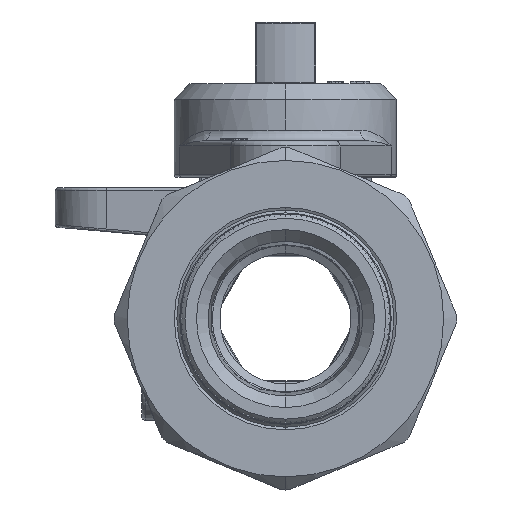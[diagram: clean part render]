
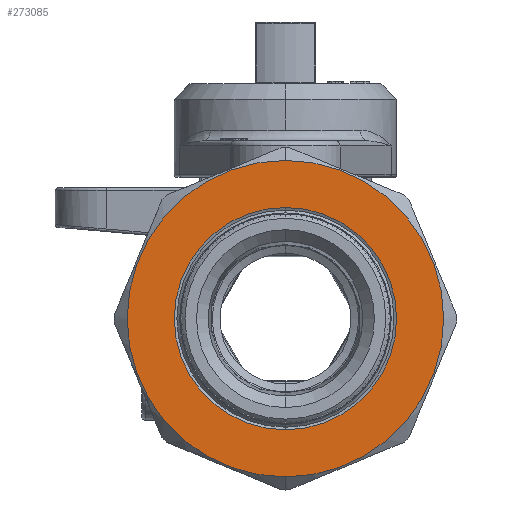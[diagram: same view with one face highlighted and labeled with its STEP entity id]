
A CAD part, left-side view. The second image highlights one B-rep face of the part: STEP entity #273085.
In plain terms, the highlighted planar face has unit normal (-1, 0, 0).
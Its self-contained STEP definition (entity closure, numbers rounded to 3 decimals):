
#273085 = ADVANCED_FACE('',(#273086,#273159),#273101,.F.);
#273086 = FACE_BOUND('',#273087,.T.);
#273087 = EDGE_LOOP('',(#273088,#273128));
#273088 = ORIENTED_EDGE('',*,*,#273089,.T.);
#273089 = EDGE_CURVE('',#273090,#273092,#273094,.T.);
#273090 = VERTEX_POINT('',#273091);
#273091 = CARTESIAN_POINT('',(-76.9,-14.566,-15.684));
#273092 = VERTEX_POINT('',#273093);
#273093 = CARTESIAN_POINT('',(-76.9,-14.566,44.816));
#273094 = SURFACE_CURVE('',#273095,(#273100,#273116),.PCURVE_S1.);
#273095 = CIRCLE('',#273096,30.25);
#273096 = AXIS2_PLACEMENT_3D('',#273097,#273098,#273099);
#273097 = CARTESIAN_POINT('',(-76.9,-14.566,14.566));
#273098 = DIRECTION('',(-1.,0.,0.));
#273099 = DIRECTION('',(0.,0.,-1.));
#273100 = PCURVE('',#273101,#273106);
#273101 = PLANE('',#273102);
#273102 = AXIS2_PLACEMENT_3D('',#273103,#273104,#273105);
#273103 = CARTESIAN_POINT('',(-76.9,-14.566,14.566));
#273104 = DIRECTION('',(1.,0.,0.));
#273105 = DIRECTION('',(-0.,1.,0.));
#273106 = DEFINITIONAL_REPRESENTATION('',(#273107),#273115);
#273107 = ( BOUNDED_CURVE() B_SPLINE_CURVE(2,(#273108,#273109,#273110,
    #273111,#273112,#273113,#273114),.UNSPECIFIED.,.T.,.F.) 
B_SPLINE_CURVE_WITH_KNOTS((1,2,2,2,2,1),(-2.094,0.,
    2.094,4.189,6.283,8.378),
.UNSPECIFIED.) CURVE() GEOMETRIC_REPRESENTATION_ITEM() 
RATIONAL_B_SPLINE_CURVE((1.,0.5,1.,0.5,1.,0.5,1.)) REPRESENTATION_ITEM(
  '') );
#273108 = CARTESIAN_POINT('',(0.,-30.25));
#273109 = CARTESIAN_POINT('',(-52.395,-30.25));
#273110 = CARTESIAN_POINT('',(-26.197,15.125));
#273111 = CARTESIAN_POINT('',(0.,60.5));
#273112 = CARTESIAN_POINT('',(26.197,15.125));
#273113 = CARTESIAN_POINT('',(52.395,-30.25));
#273114 = CARTESIAN_POINT('',(0.,-30.25));
#273115 = ( GEOMETRIC_REPRESENTATION_CONTEXT(2) 
PARAMETRIC_REPRESENTATION_CONTEXT() REPRESENTATION_CONTEXT('2D SPACE',''
  ) );
#273116 = PCURVE('',#273117,#273122);
#273117 = CONICAL_SURFACE('',#273118,31.5,0.785);
#273118 = AXIS2_PLACEMENT_3D('',#273119,#273120,#273121);
#273119 = CARTESIAN_POINT('',(-75.65,-14.566,14.566));
#273120 = DIRECTION('',(1.,0.,0.));
#273121 = DIRECTION('',(0.,0.,-1.));
#273122 = DEFINITIONAL_REPRESENTATION('',(#273123),#273127);
#273123 = LINE('',#273124,#273125);
#273124 = CARTESIAN_POINT('',(6.283,-1.25));
#273125 = VECTOR('',#273126,1.);
#273126 = DIRECTION('',(-1.,0.));
#273127 = ( GEOMETRIC_REPRESENTATION_CONTEXT(2) 
PARAMETRIC_REPRESENTATION_CONTEXT() REPRESENTATION_CONTEXT('2D SPACE',''
  ) );
#273128 = ORIENTED_EDGE('',*,*,#273129,.T.);
#273129 = EDGE_CURVE('',#273092,#273090,#273130,.T.);
#273130 = SURFACE_CURVE('',#273131,(#273136,#273147),.PCURVE_S1.);
#273131 = CIRCLE('',#273132,30.25);
#273132 = AXIS2_PLACEMENT_3D('',#273133,#273134,#273135);
#273133 = CARTESIAN_POINT('',(-76.9,-14.566,14.566));
#273134 = DIRECTION('',(-1.,0.,0.));
#273135 = DIRECTION('',(0.,0.,1.));
#273136 = PCURVE('',#273101,#273137);
#273137 = DEFINITIONAL_REPRESENTATION('',(#273138),#273146);
#273138 = ( BOUNDED_CURVE() B_SPLINE_CURVE(2,(#273139,#273140,#273141,
    #273142,#273143,#273144,#273145),.UNSPECIFIED.,.T.,.F.) 
B_SPLINE_CURVE_WITH_KNOTS((1,2,2,2,2,1),(-2.094,0.,
    2.094,4.189,6.283,8.378),
.UNSPECIFIED.) CURVE() GEOMETRIC_REPRESENTATION_ITEM() 
RATIONAL_B_SPLINE_CURVE((1.,0.5,1.,0.5,1.,0.5,1.)) REPRESENTATION_ITEM(
  '') );
#273139 = CARTESIAN_POINT('',(0.,30.25));
#273140 = CARTESIAN_POINT('',(52.395,30.25));
#273141 = CARTESIAN_POINT('',(26.197,-15.125));
#273142 = CARTESIAN_POINT('',(0.,-60.5));
#273143 = CARTESIAN_POINT('',(-26.197,-15.125));
#273144 = CARTESIAN_POINT('',(-52.395,30.25));
#273145 = CARTESIAN_POINT('',(0.,30.25));
#273146 = ( GEOMETRIC_REPRESENTATION_CONTEXT(2) 
PARAMETRIC_REPRESENTATION_CONTEXT() REPRESENTATION_CONTEXT('2D SPACE',''
  ) );
#273147 = PCURVE('',#273148,#273153);
#273148 = CONICAL_SURFACE('',#273149,31.5,0.785);
#273149 = AXIS2_PLACEMENT_3D('',#273150,#273151,#273152);
#273150 = CARTESIAN_POINT('',(-75.65,-14.566,14.566));
#273151 = DIRECTION('',(1.,0.,0.));
#273152 = DIRECTION('',(0.,0.,-1.));
#273153 = DEFINITIONAL_REPRESENTATION('',(#273154),#273158);
#273154 = LINE('',#273155,#273156);
#273155 = CARTESIAN_POINT('',(3.142,-1.25));
#273156 = VECTOR('',#273157,1.);
#273157 = DIRECTION('',(-1.,0.));
#273158 = ( GEOMETRIC_REPRESENTATION_CONTEXT(2) 
PARAMETRIC_REPRESENTATION_CONTEXT() REPRESENTATION_CONTEXT('2D SPACE',''
  ) );
#273159 = FACE_BOUND('',#273160,.T.);
#273160 = EDGE_LOOP('',(#273161,#273196));
#273161 = ORIENTED_EDGE('',*,*,#273162,.F.);
#273162 = EDGE_CURVE('',#273163,#273165,#273167,.T.);
#273163 = VERTEX_POINT('',#273164);
#273164 = CARTESIAN_POINT('',(-76.9,-14.566,-6.684));
#273165 = VERTEX_POINT('',#273166);
#273166 = CARTESIAN_POINT('',(-76.9,-14.566,35.816));
#273167 = SURFACE_CURVE('',#273168,(#273173,#273184),.PCURVE_S1.);
#273168 = CIRCLE('',#273169,21.25);
#273169 = AXIS2_PLACEMENT_3D('',#273170,#273171,#273172);
#273170 = CARTESIAN_POINT('',(-76.9,-14.566,14.566));
#273171 = DIRECTION('',(-1.,0.,0.));
#273172 = DIRECTION('',(0.,0.,-1.));
#273173 = PCURVE('',#273101,#273174);
#273174 = DEFINITIONAL_REPRESENTATION('',(#273175),#273183);
#273175 = ( BOUNDED_CURVE() B_SPLINE_CURVE(2,(#273176,#273177,#273178,
    #273179,#273180,#273181,#273182),.UNSPECIFIED.,.T.,.F.) 
B_SPLINE_CURVE_WITH_KNOTS((1,2,2,2,2,1),(-2.094,0.,
    2.094,4.189,6.283,8.378),
.UNSPECIFIED.) CURVE() GEOMETRIC_REPRESENTATION_ITEM() 
RATIONAL_B_SPLINE_CURVE((1.,0.5,1.,0.5,1.,0.5,1.)) REPRESENTATION_ITEM(
  '') );
#273176 = CARTESIAN_POINT('',(0.,-21.25));
#273177 = CARTESIAN_POINT('',(-36.806,-21.25));
#273178 = CARTESIAN_POINT('',(-18.403,10.625));
#273179 = CARTESIAN_POINT('',(0.,42.5));
#273180 = CARTESIAN_POINT('',(18.403,10.625));
#273181 = CARTESIAN_POINT('',(36.806,-21.25));
#273182 = CARTESIAN_POINT('',(0.,-21.25));
#273183 = ( GEOMETRIC_REPRESENTATION_CONTEXT(2) 
PARAMETRIC_REPRESENTATION_CONTEXT() REPRESENTATION_CONTEXT('2D SPACE',''
  ) );
#273184 = PCURVE('',#273185,#273190);
#273185 = CONICAL_SURFACE('',#273186,21.,1.047);
#273186 = AXIS2_PLACEMENT_3D('',#273187,#273188,#273189);
#273187 = CARTESIAN_POINT('',(-76.756,-14.566,
    14.566));
#273188 = DIRECTION('',(-1.,0.,0.));
#273189 = DIRECTION('',(0.,0.,1.));
#273190 = DEFINITIONAL_REPRESENTATION('',(#273191),#273195);
#273191 = LINE('',#273192,#273193);
#273192 = CARTESIAN_POINT('',(3.142,0.144));
#273193 = VECTOR('',#273194,1.);
#273194 = DIRECTION('',(1.,0.));
#273195 = ( GEOMETRIC_REPRESENTATION_CONTEXT(2) 
PARAMETRIC_REPRESENTATION_CONTEXT() REPRESENTATION_CONTEXT('2D SPACE',''
  ) );
#273196 = ORIENTED_EDGE('',*,*,#273197,.F.);
#273197 = EDGE_CURVE('',#273165,#273163,#273198,.T.);
#273198 = SURFACE_CURVE('',#273199,(#273204,#273215),.PCURVE_S1.);
#273199 = CIRCLE('',#273200,21.25);
#273200 = AXIS2_PLACEMENT_3D('',#273201,#273202,#273203);
#273201 = CARTESIAN_POINT('',(-76.9,-14.566,14.566));
#273202 = DIRECTION('',(-1.,0.,0.));
#273203 = DIRECTION('',(0.,0.,1.));
#273204 = PCURVE('',#273101,#273205);
#273205 = DEFINITIONAL_REPRESENTATION('',(#273206),#273214);
#273206 = ( BOUNDED_CURVE() B_SPLINE_CURVE(2,(#273207,#273208,#273209,
    #273210,#273211,#273212,#273213),.UNSPECIFIED.,.T.,.F.) 
B_SPLINE_CURVE_WITH_KNOTS((1,2,2,2,2,1),(-2.094,0.,
    2.094,4.189,6.283,8.378),
.UNSPECIFIED.) CURVE() GEOMETRIC_REPRESENTATION_ITEM() 
RATIONAL_B_SPLINE_CURVE((1.,0.5,1.,0.5,1.,0.5,1.)) REPRESENTATION_ITEM(
  '') );
#273207 = CARTESIAN_POINT('',(0.,21.25));
#273208 = CARTESIAN_POINT('',(36.806,21.25));
#273209 = CARTESIAN_POINT('',(18.403,-10.625));
#273210 = CARTESIAN_POINT('',(0.,-42.5));
#273211 = CARTESIAN_POINT('',(-18.403,-10.625));
#273212 = CARTESIAN_POINT('',(-36.806,21.25));
#273213 = CARTESIAN_POINT('',(0.,21.25));
#273214 = ( GEOMETRIC_REPRESENTATION_CONTEXT(2) 
PARAMETRIC_REPRESENTATION_CONTEXT() REPRESENTATION_CONTEXT('2D SPACE',''
  ) );
#273215 = PCURVE('',#273216,#273221);
#273216 = CONICAL_SURFACE('',#273217,21.,1.047);
#273217 = AXIS2_PLACEMENT_3D('',#273218,#273219,#273220);
#273218 = CARTESIAN_POINT('',(-76.756,-14.566,
    14.566));
#273219 = DIRECTION('',(-1.,0.,0.));
#273220 = DIRECTION('',(0.,0.,1.));
#273221 = DEFINITIONAL_REPRESENTATION('',(#273222),#273226);
#273222 = LINE('',#273223,#273224);
#273223 = CARTESIAN_POINT('',(0.,0.144));
#273224 = VECTOR('',#273225,1.);
#273225 = DIRECTION('',(1.,0.));
#273226 = ( GEOMETRIC_REPRESENTATION_CONTEXT(2) 
PARAMETRIC_REPRESENTATION_CONTEXT() REPRESENTATION_CONTEXT('2D SPACE',''
  ) );
